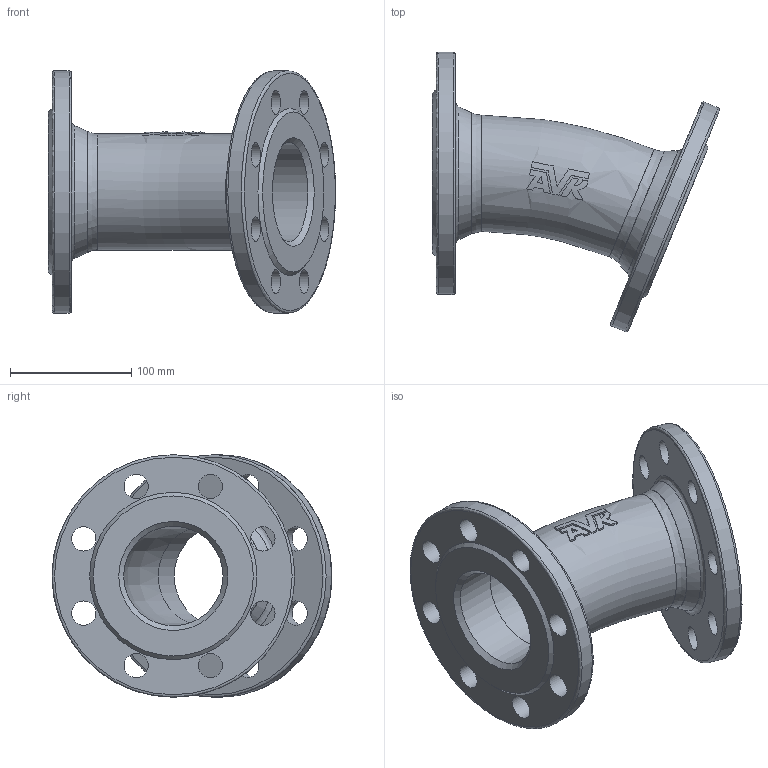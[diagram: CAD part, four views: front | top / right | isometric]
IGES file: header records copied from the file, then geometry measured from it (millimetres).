
Start section: SolidWorks IGES file using analytic representation for surfaces
Global section: file name: \\avksan2\techshare\PBM outline export from Enovia\O_712_0210_DN80_1X_REV01.igs; native system: SolidWorks 2022; preprocessor: SolidWorks 2022; author: pbm; date: 240815.140019; units: millimetre
Bounding box: 236.87 x 230.81 x 200 mm (x, y, z)
Surface area: 226252.1 mm2 (no closed solid volume)
Topology: 0 solids, 0 shells, 83 faces, 395 edges, 359 vertices
Faces by surface type: bspline 43, revolution 40
